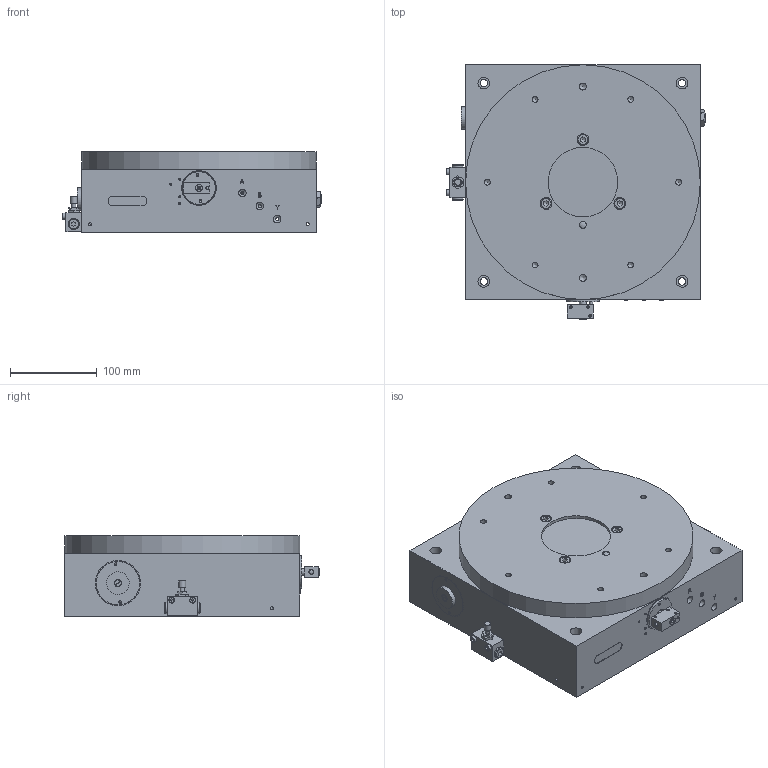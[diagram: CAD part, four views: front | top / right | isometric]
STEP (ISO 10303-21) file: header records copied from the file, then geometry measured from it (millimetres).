
FILE_DESCRIPTION(/* description */ (''),/* implementation_level */ '2;1');
FILE_NAME(/* name */ 'N:\Zeichnungen\Rundschalttische\Rundschalteinheit RSE-9(1750)\RSE-9_3d\Neutrale CAD-Formate\Rundschalteinheit RSE-9-L-..-P-0-0-P.stp',/* time_stamp */ '2016-10-20T14:37:55+02:00',/* author */ ('gose'),/* organization */ (''),/* preprocessor_version */ 'ST-DEVELOPER v16.5',/* originating_system */ 'Autodesk Inventor 2017',/* authorisation */ '');
FILE_SCHEMA (('AUTOMOTIVE_DESIGN { 1 0 10303 214 3 1 1 }'));
Length unit declared in the file: millimetre
Products named in the file (1): Rundschalteinheit RSE-9-L-..-P-0-0-P
Bounding box: 298 x 292.5 x 92.5 mm (x, y, z)
Surface area: 676196.7 mm2 (no closed solid volume)
Topology: 0 solids, 85 shells, 1292 faces, 3011 edges, 1955 vertices
Faces by surface type: plane 599, cylinder 324, cone 187, sphere 104, torus 64, bspline 14
Full cylindrical faces by diameter (mm): 0.6 x1, 1.2 x2, 1.6 x2, 1.9 x2, 2.3 x3, 2.459 x15, 3 x1, 3.1 x8, 3.2 x1, 3.242 x9, 3.571 x6, 3.6 x20, 4 x8, 4.5 x2, 4.7 x1, 4.917 x1, 5 x51, 6.5 x1, 6.647 x14, 7 x3, 7.6 x1, 8 x19, 8.15 x1, 8.4 x6, 8.5 x10, 8.566 x3, 8.8 x1, 8.917 x2, 10 x3, 12 x3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
Entity records: 36162 total; most frequent: CARTESIAN_POINT 7302, DIRECTION 5706, ORIENTED_EDGE 4852, EDGE_CURVE 2426, AXIS2_PLACEMENT_3D 2219, EDGE_LOOP 2038, VERTEX_POINT 1824, FACE_OUTER_BOUND 1292
